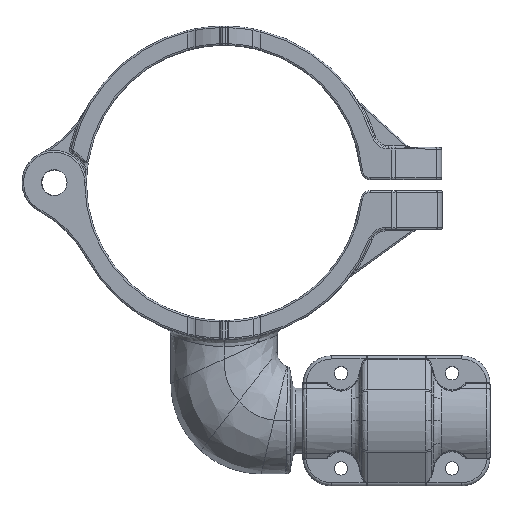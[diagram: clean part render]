
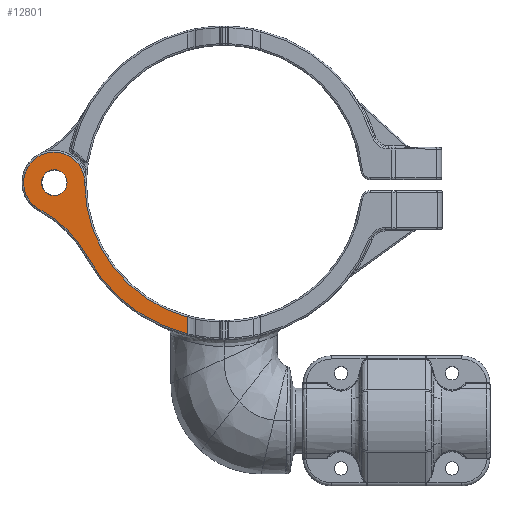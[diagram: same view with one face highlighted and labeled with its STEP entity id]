
A CAD part, top view. The second image highlights one B-rep face of the part: STEP entity #12801.
In plain terms, the highlighted planar face has unit normal (0, 0, 1).
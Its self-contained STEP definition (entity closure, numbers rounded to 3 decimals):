
#3201=DIRECTION('',(0.,1.,0.));
#3202=VECTOR('',#3201,5.235);
#3203=CARTESIAN_POINT('',(-11.417,-47.669,
17.76));
#3204=LINE('',#3203,#3202);
#3231=CARTESIAN_POINT('',(-53.584,0.,17.76));
#3232=DIRECTION('',(0.,0.,-1.));
#3233=DIRECTION('',(0.465,0.885,0.));
#3234=AXIS2_PLACEMENT_3D('',#3231,#3232,#3233);
#3239=CARTESIAN_POINT('',(0.,0.,17.76));
#3240=DIRECTION('',(0.,0.,1.));
#3241=DIRECTION('',(-1.,0.,0.));
#3242=AXIS2_PLACEMENT_3D('',#3239,#3240,#3241);
#3247=CARTESIAN_POINT('',(0.,0.,17.76));
#3248=DIRECTION('',(0.,0.,-1.));
#3249=DIRECTION('',(-0.233,-0.972,0.));
#3250=AXIS2_PLACEMENT_3D('',#3247,#3248,#3249);
#3255=CARTESIAN_POINT('',(-74.819,-40.431,17.76));
#3256=DIRECTION('',(0.,0.,1.));
#3257=DIRECTION('',(0.88,0.475,0.));
#3258=AXIS2_PLACEMENT_3D('',#3255,#3256,#3257);
#3263=CARTESIAN_POINT('',(-53.584,0.,17.76));
#3264=DIRECTION('',(0.,0.,-1.));
#3265=DIRECTION('',(-0.465,-0.885,0.));
#3266=AXIS2_PLACEMENT_3D('',#3263,#3264,#3265);
#3271=CARTESIAN_POINT('',(-53.584,0.,17.76));
#3272=DIRECTION('',(0.,0.,1.));
#3273=DIRECTION('',(1.,0.,0.));
#3274=AXIS2_PLACEMENT_3D('',#3271,#3272,#3273);
#3279=CARTESIAN_POINT('',(-53.584,0.,17.76));
#3280=DIRECTION('',(0.,0.,1.));
#3281=DIRECTION('',(-1.,0.,0.));
#3282=AXIS2_PLACEMENT_3D('',#3279,#3280,#3281);
#8175=CARTESIAN_POINT('',(-11.417,-47.669,17.76));
#8176=VERTEX_POINT('',#8175);
#8177=CARTESIAN_POINT('',(-43.124,-23.303,17.76));
#8178=VERTEX_POINT('',#8177);
#8181=CARTESIAN_POINT('',(-58.067,-8.535,17.76));
#8182=VERTEX_POINT('',#8181);
#8499=CARTESIAN_POINT('',(-11.417,-42.434,
17.76));
#8500=VERTEX_POINT('',#8499);
#8501=CARTESIAN_POINT('',(-49.101,8.535,17.76));
#8502=CARTESIAN_POINT('',(-43.943,0.,17.76));
#8503=VERTEX_POINT('',#8501);
#8504=VERTEX_POINT('',#8502);
#8505=CARTESIAN_POINT('',(-49.525,0.,17.76));
#8506=CARTESIAN_POINT('',(-57.644,0.,17.76));
#8507=VERTEX_POINT('',#8505);
#8508=VERTEX_POINT('',#8506);
#12779=CARTESIAN_POINT('',(0.,0.,17.76));
#12780=DIRECTION('',(0.,0.,1.));
#12781=DIRECTION('',(-1.,0.,0.));
#12782=AXIS2_PLACEMENT_3D('',#12779,#12780,#12781);
#12783=PLANE('',#12782);
#12785=ORIENTED_EDGE('',*,*,#12784,.T.);
#12787=ORIENTED_EDGE('',*,*,#12786,.T.);
#12788=ORIENTED_EDGE('',*,*,#12770,.F.);
#12789=ORIENTED_EDGE('',*,*,#10887,.T.);
#12790=ORIENTED_EDGE('',*,*,#10902,.T.);
#12792=ORIENTED_EDGE('',*,*,#12791,.T.);
#12793=EDGE_LOOP('',(#12785,#12787,#12788,#12789,#12790,#12792));
#12794=FACE_OUTER_BOUND('',#12793,.F.);
#12796=ORIENTED_EDGE('',*,*,#12795,.T.);
#12798=ORIENTED_EDGE('',*,*,#12797,.T.);
#12799=EDGE_LOOP('',(#12796,#12798));
#12800=FACE_BOUND('',#12799,.F.);
#3235=CIRCLE('',#3234,9.641);
#3243=CIRCLE('',#3242,43.943);
#3251=CIRCLE('',#3250,49.017);
#3259=CIRCLE('',#3258,36.027);
#3267=CIRCLE('',#3266,9.641);
#3275=CIRCLE('',#3274,4.059);
#3283=CIRCLE('',#3282,4.059);
#10887=EDGE_CURVE('',#8176,#8178,#3251,.T.);
#10902=EDGE_CURVE('',#8178,#8182,#3259,.T.);
#12770=EDGE_CURVE('',#8176,#8500,#3204,.T.);
#12784=EDGE_CURVE('',#8503,#8504,#3235,.T.);
#12786=EDGE_CURVE('',#8504,#8500,#3243,.T.);
#12791=EDGE_CURVE('',#8182,#8503,#3267,.T.);
#12795=EDGE_CURVE('',#8507,#8508,#3275,.T.);
#12797=EDGE_CURVE('',#8508,#8507,#3283,.T.);
#12801=ADVANCED_FACE('',(#12794,#12800),#12783,.T.);
